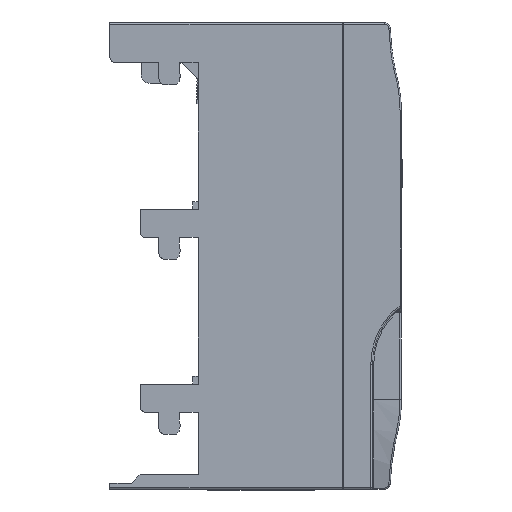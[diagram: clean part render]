
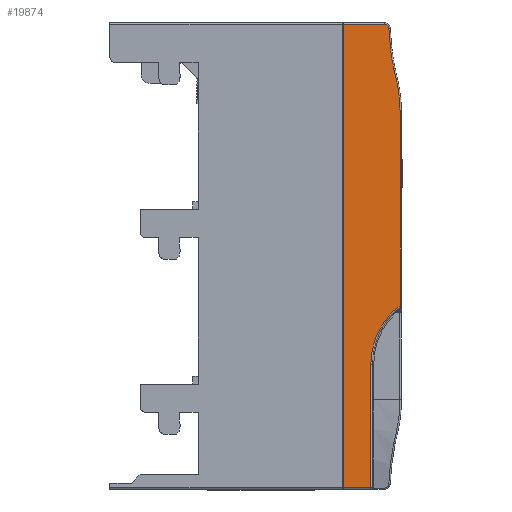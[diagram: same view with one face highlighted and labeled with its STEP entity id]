
A CAD part, left-side view. The second image highlights one B-rep face of the part: STEP entity #19874.
In plain terms, the highlighted planar face has unit normal (-1, 0, 0).
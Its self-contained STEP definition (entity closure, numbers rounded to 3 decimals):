
#230 = CARTESIAN_POINT ( 'NONE',  ( 180.595, -54.882, 478.607 ) ) ;
#936 = ORIENTED_EDGE ( 'NONE', *, *, #24186, .T. ) ;
#954 = CARTESIAN_POINT ( 'NONE',  ( 180.595, 26.767, 436.413 ) ) ;
#1253 = CARTESIAN_POINT ( 'NONE',  ( 180.595, -54.882, 436.307 ) ) ;
#2494 = LINE ( 'NONE', #23578, #19209 ) ;
#3152 = VERTEX_POINT ( 'NONE', #12466 ) ;
#3358 = LINE ( 'NONE', #16157, #26067 ) ;
#4061 = VERTEX_POINT ( 'NONE', #5930 ) ;
#4602 = LINE ( 'NONE', #13609, #8583 ) ;
#5508 = DIRECTION ( 'NONE',  ( 0., 0., 1. ) ) ;
#5767 = EDGE_CURVE ( 'NONE', #12096, #20119, #6817, .T. ) ;
#5930 = CARTESIAN_POINT ( 'NONE',  ( 180.595, -62.752, 580.201 ) ) ;
#6574 = CIRCLE ( 'NONE', #14520, 25.5 ) ;
#6663 = ORIENTED_EDGE ( 'NONE', *, *, #17733, .T. ) ;
#6817 = LINE ( 'NONE', #10922, #10851 ) ;
#6951 = VERTEX_POINT ( 'NONE', #230 ) ;
#7446 = AXIS2_PLACEMENT_3D ( 'NONE', #13693, #22092, #9261 ) ;
#7634 = DIRECTION ( 'NONE',  ( 1., 0., 0. ) ) ;
#7829 = CARTESIAN_POINT ( 'NONE',  ( 180.595, -64.932, 498.894 ) ) ;
#8205 = CARTESIAN_POINT ( 'NONE',  ( 180.595, -63.663, 576.255 ) ) ;
#8378 = CARTESIAN_POINT ( 'NONE',  ( 180.595, -64.932, 565.113 ) ) ;
#8425 = LINE ( 'NONE', #10181, #13448 ) ;
#8583 = VECTOR ( 'NONE', #19953, 1000. ) ;
#8646 = ORIENTED_EDGE ( 'NONE', *, *, #9140, .T. ) ;
#9140 = EDGE_CURVE ( 'NONE', #12209, #4061, #3358, .T. ) ;
#9255 = LINE ( 'NONE', #22355, #11972 ) ;
#9261 = DIRECTION ( 'NONE',  ( 0., 0., 1. ) ) ;
#9309 = CARTESIAN_POINT ( 'NONE',  ( 180.595, -61.635, 587.355 ) ) ;
#9419 = CARTESIAN_POINT ( 'NONE',  ( 180.595, -61.086, 593.936 ) ) ;
#9632 = DIRECTION ( 'NONE',  ( -1., 0., 0. ) ) ;
#10114 = ORIENTED_EDGE ( 'NONE', *, *, #5767, .T. ) ;
#10140 = EDGE_LOOP ( 'NONE', ( #17794, #26070, #23748, #12468, #10824, #6663, #10114, #18859, #8646, #26562, #936 ) ) ;
#10181 = CARTESIAN_POINT ( 'NONE',  ( 180.595, -55.382, 436.307 ) ) ;
#10218 = EDGE_CURVE ( 'NONE', #25777, #6951, #24224, .T. ) ;
#10450 = AXIS2_PLACEMENT_3D ( 'NONE', #954, #26603, #5508 ) ;
#10468 = CIRCLE ( 'NONE', #11595, 49.55 ) ;
#10477 = CARTESIAN_POINT ( 'NONE',  ( 180.595, -54.882, 478.607 ) ) ;
#10563 = DIRECTION ( 'NONE',  ( 0., 0., 1. ) ) ;
#10824 = ORIENTED_EDGE ( 'NONE', *, *, #10218, .T. ) ;
#10851 = VECTOR ( 'NONE', #23439, 1000. ) ;
#10922 = CARTESIAN_POINT ( 'NONE',  ( 180.595, -64.932, 436.413 ) ) ;
#11595 = AXIS2_PLACEMENT_3D ( 'NONE', #27097, #9632, #16116 ) ;
#11663 = VERTEX_POINT ( 'NONE', #12461 ) ;
#11972 = VECTOR ( 'NONE', #24512, 1000. ) ;
#12096 = VERTEX_POINT ( 'NONE', #7829 ) ;
#12209 = VERTEX_POINT ( 'NONE', #8205 ) ;
#12461 = CARTESIAN_POINT ( 'NONE',  ( 180.595, -45.382, 436.307 ) ) ;
#12466 = CARTESIAN_POINT ( 'NONE',  ( 180.595, -45.382, 595.357 ) ) ;
#12468 = ORIENTED_EDGE ( 'NONE', *, *, #14649, .T. ) ;
#13209 = VECTOR ( 'NONE', #10563, 1000. ) ;
#13448 = VECTOR ( 'NONE', #27438, 1000. ) ;
#13609 = CARTESIAN_POINT ( 'NONE',  ( 180.595, -45.382, 495.807 ) ) ;
#13693 = CARTESIAN_POINT ( 'NONE',  ( 180.595, -111.91, 591.545 ) ) ;
#13941 = CARTESIAN_POINT ( 'NONE',  ( 180.595, -80.382, 478.607 ) ) ;
#14520 = AXIS2_PLACEMENT_3D ( 'NONE', #13941, #7634, #24310 ) ;
#14649 = EDGE_CURVE ( 'NONE', #11663, #25777, #8425, .T. ) ;
#16017 = VERTEX_POINT ( 'NONE', #19572 ) ;
#16116 = DIRECTION ( 'NONE',  ( 0., 0., 1. ) ) ;
#16157 = CARTESIAN_POINT ( 'NONE',  ( 180.595, -62.752, 580.201 ) ) ;
#16188 = CIRCLE ( 'NONE', #16575, 1.55 ) ;
#16575 = AXIS2_PLACEMENT_3D ( 'NONE', #23768, #23962, #25859 ) ;
#17733 = EDGE_CURVE ( 'NONE', #6951, #12096, #6574, .T. ) ;
#17794 = ORIENTED_EDGE ( 'NONE', *, *, #24939, .T. ) ;
#18349 = EDGE_CURVE ( 'NONE', #16017, #3152, #2494, .T. ) ;
#18859 = ORIENTED_EDGE ( 'NONE', *, *, #25180, .T. ) ;
#18949 = DIRECTION ( 'NONE',  ( 0., 1., 0. ) ) ;
#19209 = VECTOR ( 'NONE', #18949, 1000. ) ;
#19572 = CARTESIAN_POINT ( 'NONE',  ( 180.595, -59.542, 595.357 ) ) ;
#19594 = FACE_OUTER_BOUND ( 'NONE', #10140, .T. ) ;
#19874 = ADVANCED_FACE ( 'NONE', ( #19594 ), #26514, .T. ) ;
#19953 = DIRECTION ( 'NONE',  ( 0., 0., -1. ) ) ;
#20119 = VERTEX_POINT ( 'NONE', #8378 ) ;
#20543 = DIRECTION ( 'NONE',  ( 0., 0.225, 0.974 ) ) ;
#21418 = VERTEX_POINT ( 'NONE', #9309 ) ;
#22092 = DIRECTION ( 'NONE',  ( 1., 0., 0. ) ) ;
#22327 = EDGE_CURVE ( 'NONE', #3152, #11663, #4602, .T. ) ;
#22355 = CARTESIAN_POINT ( 'NONE',  ( 180.595, -61.086, 593.936 ) ) ;
#22829 = VERTEX_POINT ( 'NONE', #9419 ) ;
#23439 = DIRECTION ( 'NONE',  ( 0., 0., 1. ) ) ;
#23578 = CARTESIAN_POINT ( 'NONE',  ( 180.595, -45.382, 595.357 ) ) ;
#23748 = ORIENTED_EDGE ( 'NONE', *, *, #22327, .T. ) ;
#23768 = CARTESIAN_POINT ( 'NONE',  ( 180.595, -59.542, 593.807 ) ) ;
#23962 = DIRECTION ( 'NONE',  ( -1., 0., 0. ) ) ;
#24186 = EDGE_CURVE ( 'NONE', #21418, #22829, #9255, .T. ) ;
#24224 = LINE ( 'NONE', #10477, #13209 ) ;
#24310 = DIRECTION ( 'NONE',  ( 0., 0., 1. ) ) ;
#24512 = DIRECTION ( 'NONE',  ( 0., 0.083, 0.997 ) ) ;
#24939 = EDGE_CURVE ( 'NONE', #22829, #16017, #16188, .T. ) ;
#25137 = EDGE_CURVE ( 'NONE', #4061, #21418, #27166, .T. ) ;
#25180 = EDGE_CURVE ( 'NONE', #20119, #12209, #10468, .T. ) ;
#25777 = VERTEX_POINT ( 'NONE', #1253 ) ;
#25859 = DIRECTION ( 'NONE',  ( 0., 0., 1. ) ) ;
#26067 = VECTOR ( 'NONE', #20543, 1000. ) ;
#26070 = ORIENTED_EDGE ( 'NONE', *, *, #18349, .T. ) ;
#26514 = PLANE ( 'NONE',  #10450 ) ;
#26562 = ORIENTED_EDGE ( 'NONE', *, *, #25137, .T. ) ;
#26603 = DIRECTION ( 'NONE',  ( -1., 0., 0. ) ) ;
#27097 = CARTESIAN_POINT ( 'NONE',  ( 180.595, -15.382, 565.113 ) ) ;
#27166 = CIRCLE ( 'NONE', #7446, 50.45 ) ;
#27438 = DIRECTION ( 'NONE',  ( 0., -1., 0. ) ) ;
